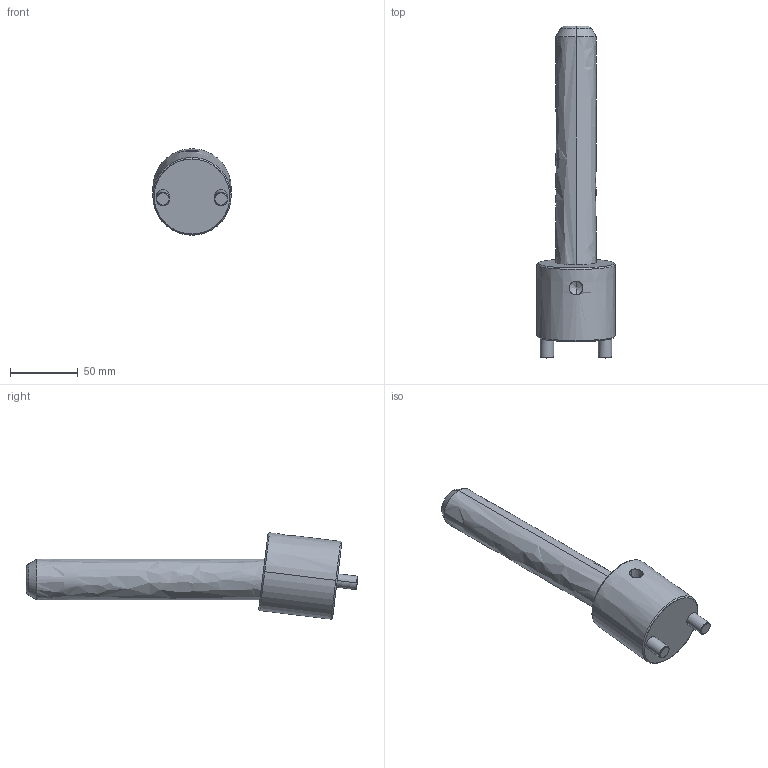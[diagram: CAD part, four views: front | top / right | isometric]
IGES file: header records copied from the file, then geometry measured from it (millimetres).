
Start section: START RECORD GO HERE.
Global section: file name: CI0730175.igs; native system: DASSAULT SYSTEMES CATIA V5 R20 - www.3ds.com; preprocessor: CATIA Version 5 Release 20 ; author: r.borello; organization: CFTORINO; date: 20190624.093501; units: millimetre
Bounding box: 58 x 245.76 x 64.03 mm (x, y, z)
Surface area: 42650.9 mm2 (no closed solid volume)
Topology: 0 solids, 0 shells, 39 faces, 162 edges, 160 vertices
Faces by surface type: revolution 32, plane 7
